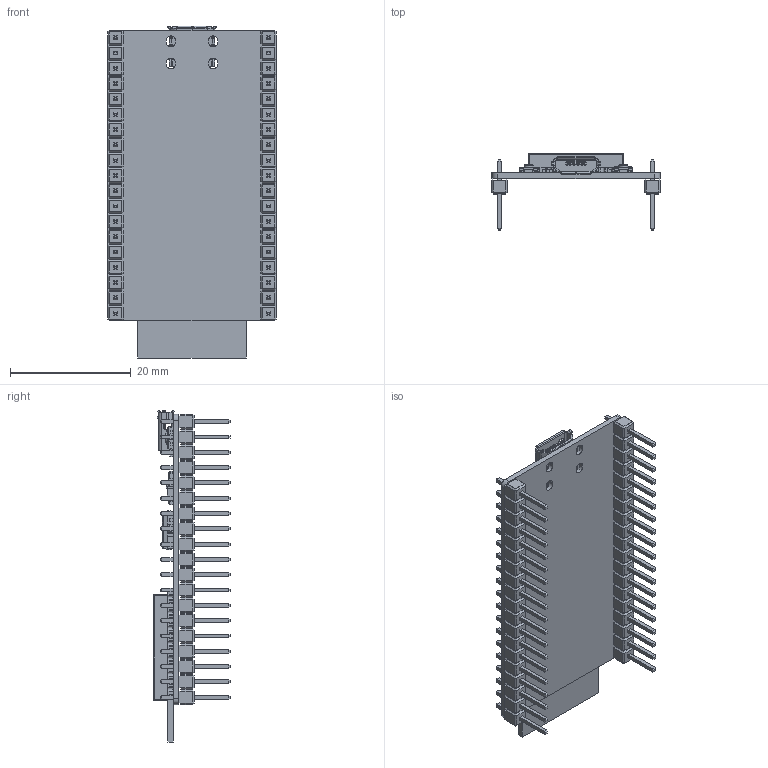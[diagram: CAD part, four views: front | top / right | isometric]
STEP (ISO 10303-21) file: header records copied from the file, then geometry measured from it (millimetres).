
FILE_DESCRIPTION (( 'STEP AP214' ), '1' );
FILE_NAME ('ESP32-DEVKITC.STEP', '2024-03-26T07:00:53', ( '' ), ( '' ), 'SwSTEP 2.0', 'SolidWorks 2021', '' );
FILE_SCHEMA (( 'AUTOMOTIVE_DESIGN' ));
Length unit declared in the file: millimetre
Products named in the file (10): CP2102N-A01-GQFN28; header; AMS1117-3.3; board; micro usb; components^DEVKIT V1 ESP32-WROOM-32; SS8050-G; ESP32-WROOM-32D; button; ESP32-DEVKITC
Assembly tree (11 placements, depth 2):
  ESP32-DEVKITC
    board
    header  x2
    ESP32-WROOM-32D
    micro usb
    button  x2
    CP2102N-A01-GQFN28
    AMS1117-3.3
    SS8050-G
    components^DEVKIT V1 ESP32-WROOM-32
Bounding box: 27.94 x 12.69 x 55.1 mm (x, y, z)
Volume: 2446.1 mm3; surface area: 8676.9 mm2
Topology: 275 solids, 275 shells, 4723 faces, 11231 edges, 7042 vertices
Faces by surface type: plane 4046, cylinder 645, bspline 24, torus 8
Entity records: 119518 total; most frequent: CARTESIAN_POINT 18470, ORIENTED_EDGE 17330, DIRECTION 16863, EDGE_CURVE 8665, VECTOR 7361, LINE 7361, VERTEX_POINT 5538, AXIS2_PLACEMENT_3D 4751
